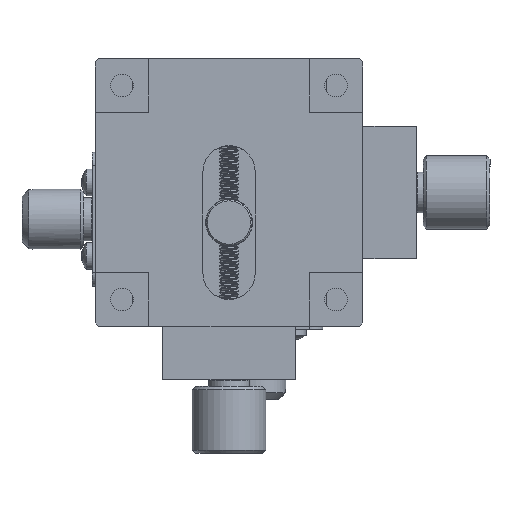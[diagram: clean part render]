
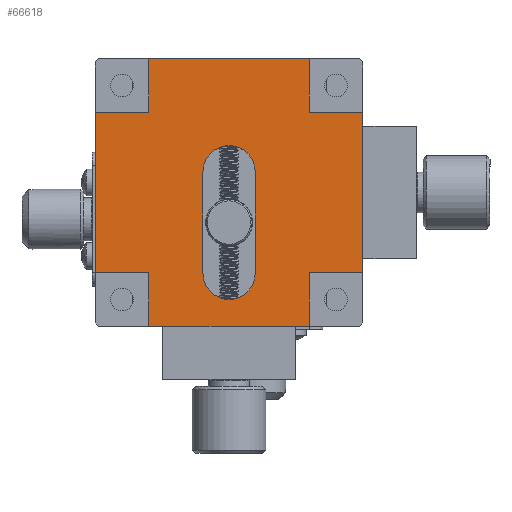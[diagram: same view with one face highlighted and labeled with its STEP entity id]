
A CAD part, front view. The second image highlights one B-rep face of the part: STEP entity #66618.
In plain terms, the highlighted planar face has unit normal (0, -1, 0).
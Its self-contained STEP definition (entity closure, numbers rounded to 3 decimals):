
#511 = ORIENTED_EDGE ( 'NONE', *, *, #57515, .F. ) ;
#771 = CARTESIAN_POINT ( 'NONE',  ( 0., 0.2, 0. ) ) ;
#2765 = CIRCLE ( 'NONE', #27426, 3.9 ) ;
#3346 = CARTESIAN_POINT ( 'NONE',  ( 32., 0.2, -32. ) ) ;
#4254 = CARTESIAN_POINT ( 'NONE',  ( 32., 0.2, -40. ) ) ;
#4279 = CARTESIAN_POINT ( 'NONE',  ( 20., 0.2, -16.9 ) ) ;
#4355 = AXIS2_PLACEMENT_3D ( 'NONE', #38742, #84335, #31441 ) ;
#4777 = CARTESIAN_POINT ( 'NONE',  ( 40., 0.2, -8. ) ) ;
#5112 = CARTESIAN_POINT ( 'NONE',  ( 0., 0.2, -8. ) ) ;
#6613 = EDGE_CURVE ( 'NONE', #51931, #36131, #47132, .T. ) ;
#7178 = EDGE_LOOP ( 'NONE', ( #54989, #18929, #80828, #68344 ) ) ;
#9019 = VERTEX_POINT ( 'NONE', #9565 ) ;
#9565 = CARTESIAN_POINT ( 'NONE',  ( 23.9, 0.2, -16.9 ) ) ;
#10923 = DIRECTION ( 'NONE',  ( 0., 0., -1. ) ) ;
#11611 = DIRECTION ( 'NONE',  ( 1., 0., 0. ) ) ;
#12042 = EDGE_CURVE ( 'NONE', #20865, #62690, #2765, .T. ) ;
#12522 = DIRECTION ( 'NONE',  ( 0., 0., 1. ) ) ;
#13299 = VERTEX_POINT ( 'NONE', #65952 ) ;
#13913 = VECTOR ( 'NONE', #10923, 1000. ) ;
#14023 = DIRECTION ( 'NONE',  ( -1., 0., 0. ) ) ;
#14363 = EDGE_CURVE ( 'NONE', #66470, #36131, #55887, .T. ) ;
#14550 = DIRECTION ( 'NONE',  ( -1., 0., 0. ) ) ;
#14763 = ORIENTED_EDGE ( 'NONE', *, *, #49063, .F. ) ;
#15096 = VECTOR ( 'NONE', #33822, 1000. ) ;
#15694 = CARTESIAN_POINT ( 'NONE',  ( 16.1, 0.2, -16.9 ) ) ;
#15738 = ORIENTED_EDGE ( 'NONE', *, *, #6613, .T. ) ;
#17707 = PLANE ( 'NONE',  #4355 ) ;
#18066 = LINE ( 'NONE', #70503, #30823 ) ;
#18929 = ORIENTED_EDGE ( 'NONE', *, *, #41238, .T. ) ;
#19168 = CARTESIAN_POINT ( 'NONE',  ( 8., 0.2, -32. ) ) ;
#19302 = DIRECTION ( 'NONE',  ( 0., 0., -1. ) ) ;
#19360 = DIRECTION ( 'NONE',  ( 1., 0., 0. ) ) ;
#20865 = VERTEX_POINT ( 'NONE', #82503 ) ;
#21763 = ORIENTED_EDGE ( 'NONE', *, *, #65495, .F. ) ;
#22856 = CIRCLE ( 'NONE', #65397, 3.9 ) ;
#23682 = EDGE_CURVE ( 'NONE', #55089, #53061, #69809, .T. ) ;
#24416 = CARTESIAN_POINT ( 'NONE',  ( 40., 0.2, -32. ) ) ;
#24553 = ORIENTED_EDGE ( 'NONE', *, *, #72567, .F. ) ;
#25865 = FACE_BOUND ( 'NONE', #7178, .T. ) ;
#25954 = DIRECTION ( 'NONE',  ( 0., 0., -1. ) ) ;
#27252 = CARTESIAN_POINT ( 'NONE',  ( 32., 0.2, -8. ) ) ;
#27426 = AXIS2_PLACEMENT_3D ( 'NONE', #50809, #43523, #77051 ) ;
#28228 = ORIENTED_EDGE ( 'NONE', *, *, #14363, .F. ) ;
#29976 = CARTESIAN_POINT ( 'NONE',  ( 8., 0.2, 0. ) ) ;
#30463 = DIRECTION ( 'NONE',  ( 0., 1., 0. ) ) ;
#30661 = DIRECTION ( 'NONE',  ( 0., 0., 1. ) ) ;
#30823 = VECTOR ( 'NONE', #11611, 1000. ) ;
#31012 = VECTOR ( 'NONE', #12522, 1000. ) ;
#31441 = DIRECTION ( 'NONE',  ( 0., 0., -1. ) ) ;
#32605 = LINE ( 'NONE', #85055, #73666 ) ;
#32655 = LINE ( 'NONE', #58879, #67592 ) ;
#32702 = CARTESIAN_POINT ( 'NONE',  ( 40., 0.2, 0. ) ) ;
#33124 = VERTEX_POINT ( 'NONE', #24416 ) ;
#33822 = DIRECTION ( 'NONE',  ( -1., 0., 0. ) ) ;
#34428 = DIRECTION ( 'NONE',  ( 0., 0., 1. ) ) ;
#36131 = VERTEX_POINT ( 'NONE', #29976 ) ;
#38742 = CARTESIAN_POINT ( 'NONE',  ( 20., 0.2, -20. ) ) ;
#39049 = VECTOR ( 'NONE', #30661, 1000. ) ;
#40083 = VERTEX_POINT ( 'NONE', #4777 ) ;
#40952 = CARTESIAN_POINT ( 'NONE',  ( 40., 0.2, -8. ) ) ;
#41238 = EDGE_CURVE ( 'NONE', #9019, #20865, #62465, .T. ) ;
#41410 = ORIENTED_EDGE ( 'NONE', *, *, #54977, .F. ) ;
#42838 = VECTOR ( 'NONE', #14550, 1000. ) ;
#43086 = VECTOR ( 'NONE', #82659, 1000. ) ;
#43471 = VERTEX_POINT ( 'NONE', #80682 ) ;
#43523 = DIRECTION ( 'NONE',  ( 0., 1., 0. ) ) ;
#43908 = ORIENTED_EDGE ( 'NONE', *, *, #47748, .T. ) ;
#44623 = VECTOR ( 'NONE', #59880, 1000. ) ;
#45156 = ORIENTED_EDGE ( 'NONE', *, *, #78766, .T. ) ;
#45353 = EDGE_LOOP ( 'NONE', ( #43908, #21763, #14763, #45156, #63654, #41410, #62651, #57309, #511, #15738, #28228, #24553 ) ) ;
#46133 = LINE ( 'NONE', #71948, #71766 ) ;
#47132 = LINE ( 'NONE', #771, #15096 ) ;
#47133 = EDGE_CURVE ( 'NONE', #33124, #40083, #70560, .T. ) ;
#47401 = LINE ( 'NONE', #40952, #44623 ) ;
#47671 = EDGE_CURVE ( 'NONE', #43471, #9019, #22856, .T. ) ;
#47748 = EDGE_CURVE ( 'NONE', #73564, #70736, #32605, .T. ) ;
#49063 = EDGE_CURVE ( 'NONE', #13299, #64322, #56787, .T. ) ;
#49932 = CARTESIAN_POINT ( 'NONE',  ( 8., 0.2, -8. ) ) ;
#50809 = CARTESIAN_POINT ( 'NONE',  ( 20., 0.2, -32.1 ) ) ;
#51931 = VERTEX_POINT ( 'NONE', #72328 ) ;
#52798 = CARTESIAN_POINT ( 'NONE',  ( 40., 0.2, -32. ) ) ;
#53061 = VERTEX_POINT ( 'NONE', #4254 ) ;
#53463 = CARTESIAN_POINT ( 'NONE',  ( 0., 0.2, -32. ) ) ;
#53959 = LINE ( 'NONE', #73741, #65383 ) ;
#54977 = EDGE_CURVE ( 'NONE', #33124, #55089, #73428, .T. ) ;
#54989 = ORIENTED_EDGE ( 'NONE', *, *, #47671, .T. ) ;
#55089 = VERTEX_POINT ( 'NONE', #3346 ) ;
#55887 = LINE ( 'NONE', #67534, #64612 ) ;
#56677 = DIRECTION ( 'NONE',  ( 0., 0., -1. ) ) ;
#56787 = LINE ( 'NONE', #82177, #62723 ) ;
#57309 = ORIENTED_EDGE ( 'NONE', *, *, #63513, .F. ) ;
#57515 = EDGE_CURVE ( 'NONE', #51931, #74552, #46133, .T. ) ;
#58090 = FACE_OUTER_BOUND ( 'NONE', #45353, .T. ) ;
#58879 = CARTESIAN_POINT ( 'NONE',  ( 0., 0.2, -8. ) ) ;
#59880 = DIRECTION ( 'NONE',  ( 1., 0., 0. ) ) ;
#61380 = EDGE_CURVE ( 'NONE', #62690, #43471, #81857, .T. ) ;
#62465 = LINE ( 'NONE', #83095, #43086 ) ;
#62651 = ORIENTED_EDGE ( 'NONE', *, *, #47133, .T. ) ;
#62690 = VERTEX_POINT ( 'NONE', #80617 ) ;
#62723 = VECTOR ( 'NONE', #83034, 1000. ) ;
#63513 = EDGE_CURVE ( 'NONE', #74552, #40083, #47401, .T. ) ;
#63654 = ORIENTED_EDGE ( 'NONE', *, *, #23682, .F. ) ;
#64322 = VERTEX_POINT ( 'NONE', #19168 ) ;
#64612 = VECTOR ( 'NONE', #34428, 1000. ) ;
#65383 = VECTOR ( 'NONE', #14023, 1000. ) ;
#65397 = AXIS2_PLACEMENT_3D ( 'NONE', #4279, #30463, #56677 ) ;
#65495 = EDGE_CURVE ( 'NONE', #64322, #70736, #53959, .T. ) ;
#65952 = CARTESIAN_POINT ( 'NONE',  ( 8., 0.2, -40. ) ) ;
#66470 = VERTEX_POINT ( 'NONE', #49932 ) ;
#66618 = ADVANCED_FACE ( 'NONE', ( #25865, #58090 ), #17707, .T. ) ;
#67534 = CARTESIAN_POINT ( 'NONE',  ( 8., 0.2, 0. ) ) ;
#67592 = VECTOR ( 'NONE', #19360, 1000. ) ;
#68344 = ORIENTED_EDGE ( 'NONE', *, *, #61380, .T. ) ;
#69809 = LINE ( 'NONE', #75009, #13913 ) ;
#70503 = CARTESIAN_POINT ( 'NONE',  ( 0., 0.2, -40. ) ) ;
#70560 = LINE ( 'NONE', #32702, #31012 ) ;
#70736 = VERTEX_POINT ( 'NONE', #53463 ) ;
#71766 = VECTOR ( 'NONE', #25954, 1000. ) ;
#71948 = CARTESIAN_POINT ( 'NONE',  ( 32., 0.2, 0. ) ) ;
#72328 = CARTESIAN_POINT ( 'NONE',  ( 32., 0.2, 0. ) ) ;
#72567 = EDGE_CURVE ( 'NONE', #73564, #66470, #32655, .T. ) ;
#73428 = LINE ( 'NONE', #52798, #42838 ) ;
#73564 = VERTEX_POINT ( 'NONE', #5112 ) ;
#73666 = VECTOR ( 'NONE', #19302, 1000. ) ;
#73741 = CARTESIAN_POINT ( 'NONE',  ( 0., 0.2, -32. ) ) ;
#74552 = VERTEX_POINT ( 'NONE', #27252 ) ;
#75009 = CARTESIAN_POINT ( 'NONE',  ( 32., 0.2, -40. ) ) ;
#77051 = DIRECTION ( 'NONE',  ( 0., 0., -1. ) ) ;
#78766 = EDGE_CURVE ( 'NONE', #13299, #53061, #18066, .T. ) ;
#80617 = CARTESIAN_POINT ( 'NONE',  ( 16.1, 0.2, -32.1 ) ) ;
#80682 = CARTESIAN_POINT ( 'NONE',  ( 16.1, 0.2, -16.9 ) ) ;
#80828 = ORIENTED_EDGE ( 'NONE', *, *, #12042, .T. ) ;
#81857 = LINE ( 'NONE', #15694, #39049 ) ;
#82177 = CARTESIAN_POINT ( 'NONE',  ( 8., 0.2, -40. ) ) ;
#82503 = CARTESIAN_POINT ( 'NONE',  ( 23.9, 0.2, -32.1 ) ) ;
#82659 = DIRECTION ( 'NONE',  ( 0., 0., -1. ) ) ;
#83034 = DIRECTION ( 'NONE',  ( 0., 0., 1. ) ) ;
#83095 = CARTESIAN_POINT ( 'NONE',  ( 23.9, 0.2, -16.9 ) ) ;
#84335 = DIRECTION ( 'NONE',  ( 0., -1., 0. ) ) ;
#85055 = CARTESIAN_POINT ( 'NONE',  ( 0., 0.2, 0. ) ) ;
